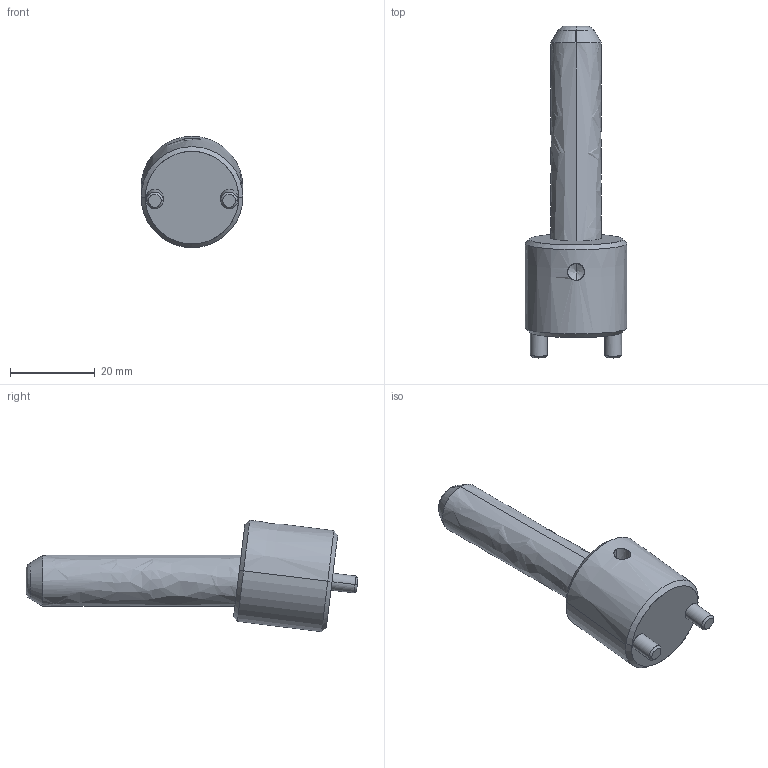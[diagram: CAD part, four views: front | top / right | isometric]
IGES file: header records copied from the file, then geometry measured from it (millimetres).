
Start section: START RECORD GO HERE.
Global section: file name: CI0712050.igs; native system: DASSAULT SYSTEMES CATIA V5 R20 - www.3ds.com; preprocessor: CATIA Version 5 Release 20 ; author: r.borello; organization: CFTORINO; date: 20190620.161718; units: millimetre
Bounding box: 24 x 78.28 x 26.26 mm (x, y, z)
Surface area: 6092.9 mm2 (no closed solid volume)
Topology: 0 solids, 0 shells, 39 faces, 162 edges, 160 vertices
Faces by surface type: revolution 32, plane 7
